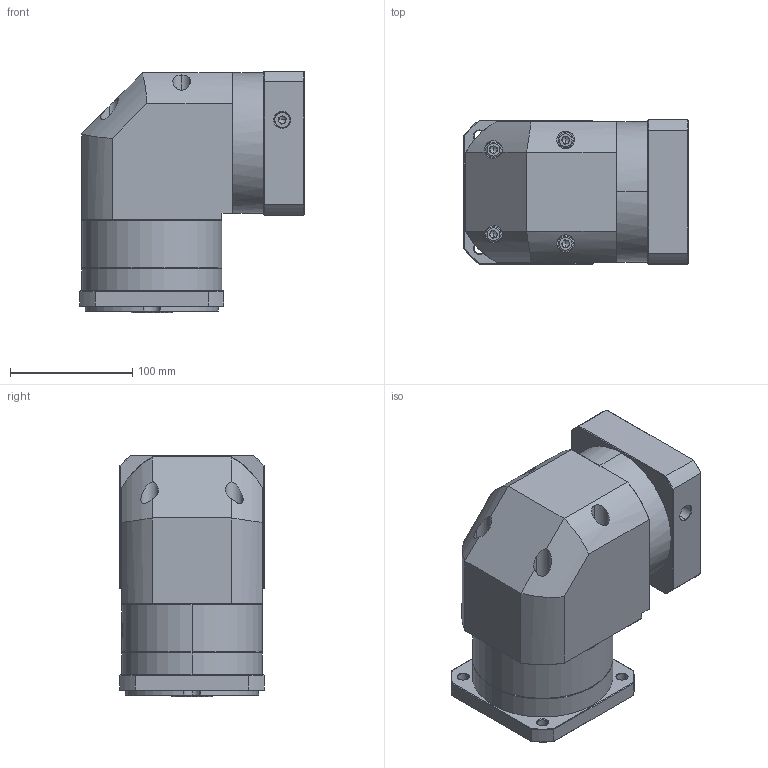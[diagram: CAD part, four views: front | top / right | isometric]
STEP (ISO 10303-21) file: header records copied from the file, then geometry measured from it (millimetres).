
FILE_DESCRIPTION (( 'STEP AP214' ), '1' );
FILE_NAME ('ZFR120A-K25-L1-P2-19-95-115-M6.step', '2023-08-27T08:12:44', ( '' ), ( '' ), 'SwSTEP 2.0', 'SolidWorks 2016', '' );
FILE_SCHEMA (( 'AUTOMOTIVE_DESIGN' ));
Length unit declared in the file: millimetre
Products named in the file (1): ZFR120A-K25-L1-P2-19-95-115-M6
Bounding box: 183.9 x 118 x 198 mm (x, y, z)
Volume: 2752832.6 mm3; surface area: 234201.2 mm2
Topology: 6 solids, 6 shells, 2197 faces, 5797 edges, 3704 vertices
Faces by surface type: plane 1053, bspline 419, cylinder 386, cone 331, torus 8
Entity records: 119086 total; most frequent: CARTESIAN_POINT 45836, ORIENTED_EDGE 11538, DIRECTION 8393, EDGE_CURVE 5769, VERTEX_POINT 3704, LINE 3087, VECTOR 3087, AXIS2_PLACEMENT_3D 2653
